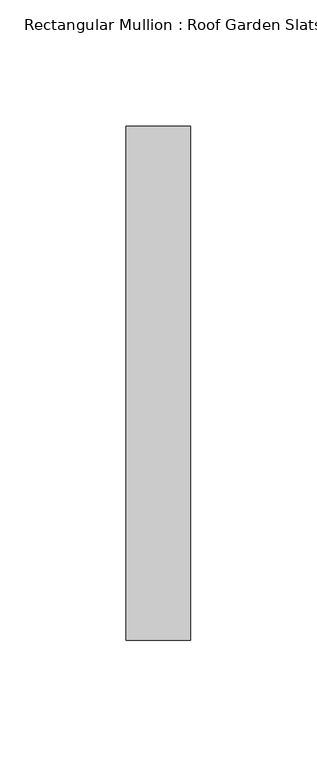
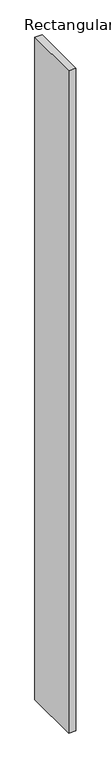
"""IFC4 building model written with IfcOpenShell, lengths in millimetres: member geometry, Rectangular Mullion : Roof Garden Slats."""

from ifc_helpers import new_model, si_unit, frame, origin, place, context, project, spatial, polyline, outline, extrude, source, transform, mapped, element, save


def rectangular_mullion_roof_garden_slats_1eeb2c3f(model_context):
    return source(origin(), model_context, "Body", "SweptSolid", [
        extrude(outline(polyline([(12.7, 139.7), (12.7, -63.5), (-12.7, -63.5), (-12.7, 139.7), (12.7, 139.7)])), frame((0.0, 0.0, -2434.534778), z_axis=(0.0, 0.0, 1.0), x_axis=(1.0, 0.0, 0.0)), (0.0, 0.0, 1.0), 2434.534778),
    ])


if __name__ == "__main__":
    model = new_model("IFC4")
    model_context = context("Model", 3, world=origin())
    ifc_project = project(units=[si_unit("LENGTHUNIT", "METRE", prefix="MILLI")], contexts=[model_context])
    site = spatial("IfcSite", under=ifc_project)
    building = spatial("IfcBuilding", under=site)
    placement = place(None, origin())
    rectangular_mullion_roof_garden_slats_shape = rectangular_mullion_roof_garden_slats_1eeb2c3f(model_context)
    element("IfcMember", 1, ObjectType="Rectangular Mullion : Roof Garden Slats", at=placement, inside=building, context=model_context, shape_type="MappedRepresentation", body=[
        mapped(rectangular_mullion_roof_garden_slats_shape, transform((0.0, 0.0, 0.0), x_axis=(1.0, 0.0, 0.0), y_axis=(0.0, 1.0, 0.0), z_axis=(0.0, 0.0, 1.0))),
    ])
    save(model, "model.ifc")
